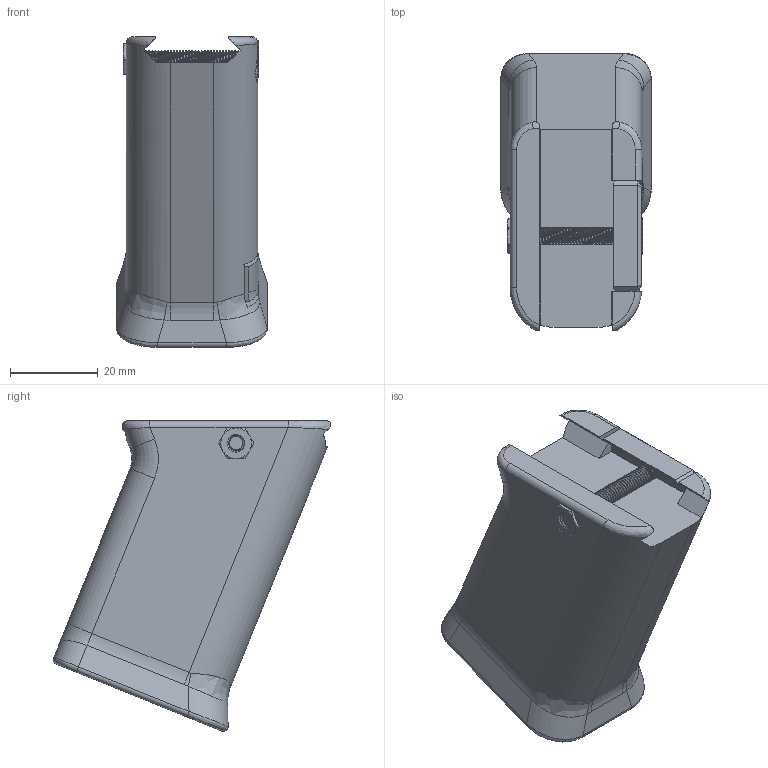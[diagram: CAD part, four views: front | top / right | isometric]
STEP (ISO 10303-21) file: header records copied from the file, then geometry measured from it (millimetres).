
FILE_DESCRIPTION(/* description */ ('','CAx-IF Rec.Pracs.---Representation and Presentation of Product Manufacturing Information (PMI)---4.0---2014-10-13'),/* implementation_level */ '2;1');
FILE_NAME(/* name */ 'Grip_blank.step',/* time_stamp */ '2025-03-09T18:14:18+01:00',/* author */ (''),/* organization */ (''),/* preprocessor_version */ 'ST-DEVELOPER v20',/* originating_system */ 'Autodesk Translation Framework v13.20.0.188',/* authorisation */ '');
FILE_SCHEMA (('AP242_MANAGED_MODEL_BASED_3D_ENGINEERING_MIM_LF { 1 0 10303 442 1 1 4 }'));
Length unit declared in the file: millimetre
Products named in the file (3): NAR Grip 3 V2; 92703A461_18-8 Stainless Steel Torx Flat Head Screws; 90593A003_Black-Oxide Steel Hex Nut
Assembly tree (2 placements, depth 2):
  NAR Grip 3 V2
    92703A461_18-8 Stainless Steel Torx Flat Head Screws
    90593A003_Black-Oxide Steel Hex Nut
Bounding box: 34.28 x 63.27 x 70.81 mm (x, y, z)
Volume: 31075.2 mm3; surface area: 19195.9 mm2
Topology: 4 solids, 4 shells, 296 faces, 782 edges, 487 vertices
Faces by surface type: cylinder 134, plane 81, cone 40, bspline 36, torus 5
Full cylindrical faces by diameter (mm): 3.091 x41, 4 x42, 4.2 x2, 8.4 x1
Entity records: 16252 total; most frequent: CARTESIAN_POINT 9537, ORIENTED_EDGE 1552, DIRECTION 1197, EDGE_CURVE 776, VERTEX_POINT 487, AXIS2_PLACEMENT_3D 433, LINE 331, VECTOR 331
